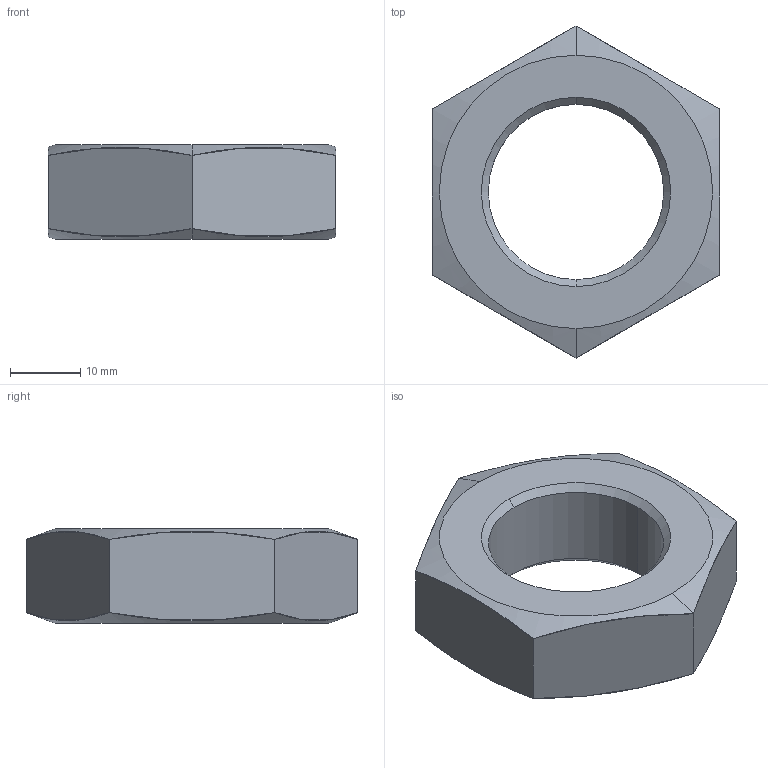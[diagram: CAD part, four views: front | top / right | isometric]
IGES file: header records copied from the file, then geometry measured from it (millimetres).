
Start section:  PTC IGES file: 1823A00029\1823a00029.iges
Global section: file name: 1823A00029\1823a00029.iges; native system: Creo Parametric by PTC Inc.; preprocessor: 2023092; author: GND7HC; organization: Unknown; date: 20241118.113229; units: millimetre
Bounding box: 41 x 47.34 x 13.5 mm (x, y, z)
Surface area: 4635.8 mm2 (no closed solid volume)
Topology: 0 solids, 0 shells, 18 faces, 88 edges, 88 vertices
Faces by surface type: revolution 10, bspline 8
